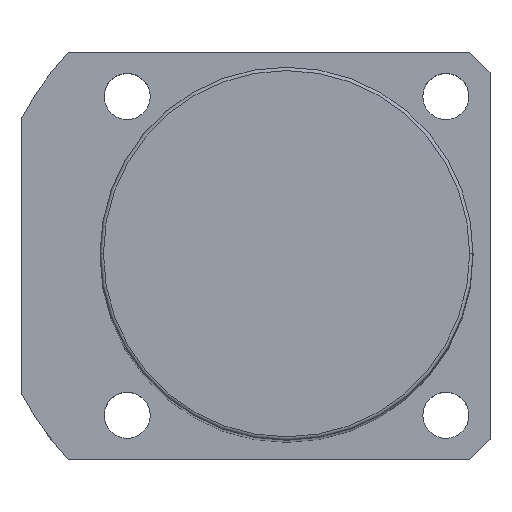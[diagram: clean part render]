
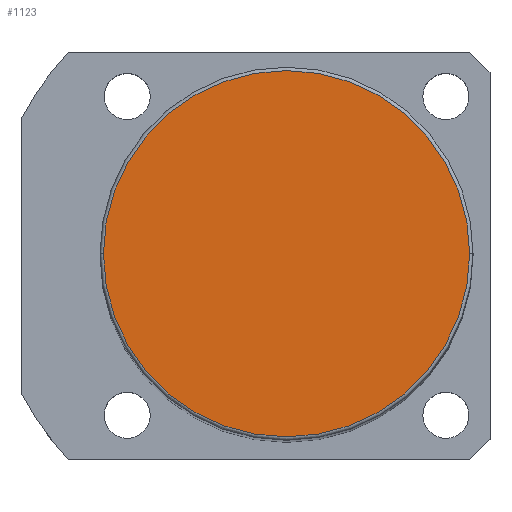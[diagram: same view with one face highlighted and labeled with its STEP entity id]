
A CAD part, top view. The second image highlights one B-rep face of the part: STEP entity #1123.
In plain terms, the highlighted planar face has unit normal (0, 0, 1).
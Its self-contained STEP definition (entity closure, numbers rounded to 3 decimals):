
#39 = DIRECTION ( 'NONE',  ( 1., 0., 0. ) ) ;
#61 = ORIENTED_EDGE ( 'NONE', *, *, #674, .T. ) ;
#316 = DIRECTION ( 'NONE',  ( 0., 0., 1. ) ) ;
#358 = EDGE_LOOP ( 'NONE', ( #575, #61 ) ) ;
#428 = AXIS2_PLACEMENT_3D ( 'NONE', #491, #316, #2137 ) ;
#491 = CARTESIAN_POINT ( 'NONE',  ( 0., 0., 191. ) ) ;
#570 = CARTESIAN_POINT ( 'NONE',  ( 0., 0., 191. ) ) ;
#575 = ORIENTED_EDGE ( 'NONE', *, *, #2154, .T. ) ;
#670 = VERTEX_POINT ( 'NONE', #1737 ) ;
#674 = EDGE_CURVE ( 'NONE', #670, #1075, #1297, .T. ) ;
#720 = FACE_OUTER_BOUND ( 'NONE', #358, .T. ) ;
#742 = AXIS2_PLACEMENT_3D ( 'NONE', #570, #1043, #39 ) ;
#763 = DIRECTION ( 'NONE',  ( 1., 0., 0. ) ) ;
#1043 = DIRECTION ( 'NONE',  ( 0., 0., 1. ) ) ;
#1075 = VERTEX_POINT ( 'NONE', #1963 ) ;
#1123 = ADVANCED_FACE ( 'NONE', ( #720 ), #2153, .T. ) ;
#1280 = CIRCLE ( 'NONE', #742, 27. ) ;
#1297 = CIRCLE ( 'NONE', #1617, 27. ) ;
#1617 = AXIS2_PLACEMENT_3D ( 'NONE', #1775, #2111, #763 ) ;
#1737 = CARTESIAN_POINT ( 'NONE',  ( -27., 0., 191. ) ) ;
#1775 = CARTESIAN_POINT ( 'NONE',  ( 0., 0., 191. ) ) ;
#1963 = CARTESIAN_POINT ( 'NONE',  ( 27., 0., 191. ) ) ;
#2111 = DIRECTION ( 'NONE',  ( 0., 0., 1. ) ) ;
#2137 = DIRECTION ( 'NONE',  ( 1., 0., 0. ) ) ;
#2153 = PLANE ( 'NONE',  #428 ) ;
#2154 = EDGE_CURVE ( 'NONE', #1075, #670, #1280, .T. ) ;
